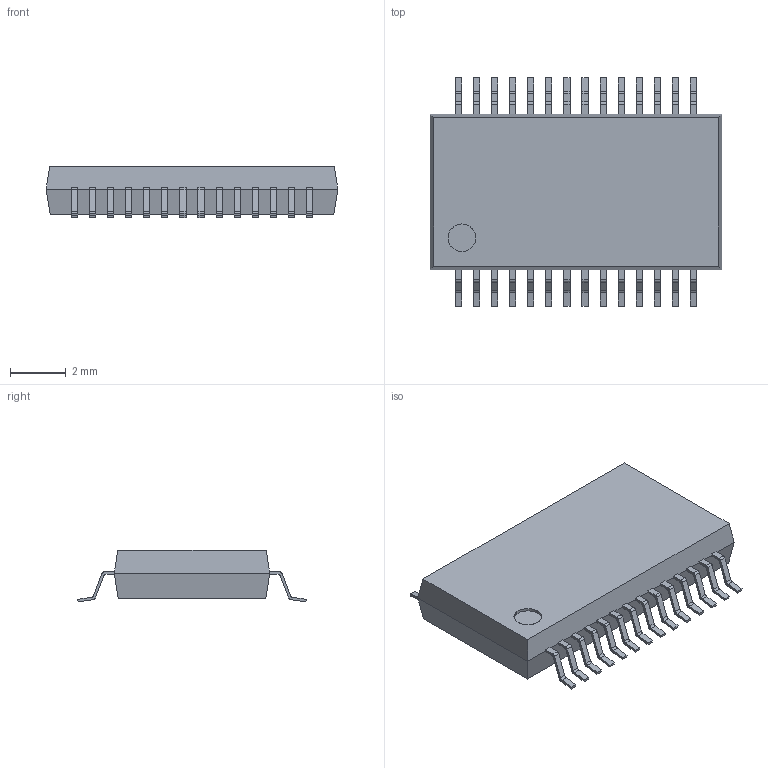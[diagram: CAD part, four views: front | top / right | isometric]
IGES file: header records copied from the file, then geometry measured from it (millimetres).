
Start section: SolidWorks IGES file using analytic representation for surfaces
Global section: file name: G:\DN-sobota\IC-SSOP28-AM256.IGS; native system: SolidWorks 2010; preprocessor: SolidWorks 2010; author: cerar; date: 110530.154657; units: millimetre
Bounding box: 10.5 x 8.23 x 1.85 mm (x, y, z)
Surface area: 317.4 mm2 (no closed solid volume)
Topology: 0 solids, 0 shells, 491 faces, 2832 edges, 2832 vertices
Faces by surface type: bspline 321, revolution 170
